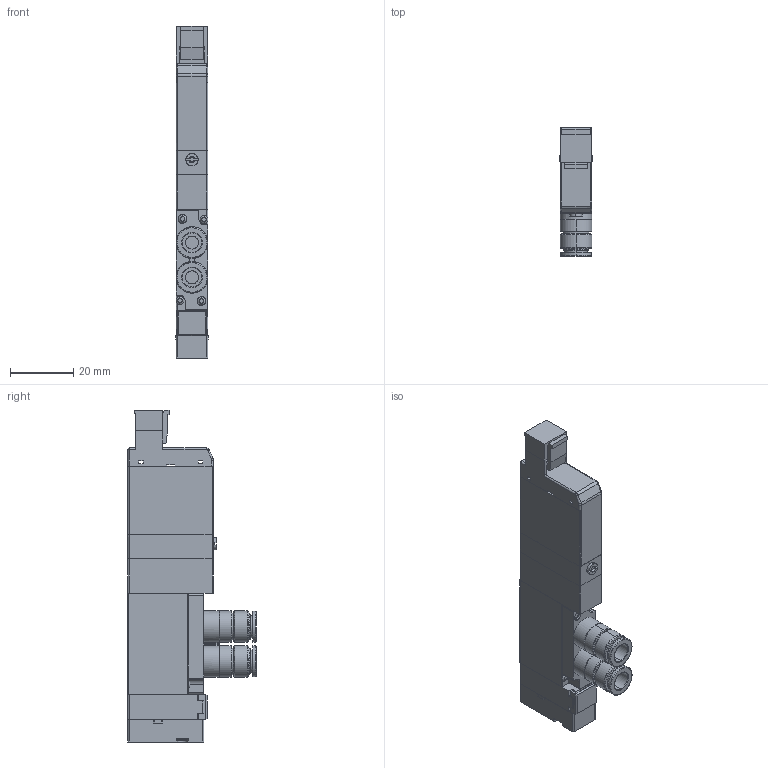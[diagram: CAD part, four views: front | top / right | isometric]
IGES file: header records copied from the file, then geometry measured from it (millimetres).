
Start section: ------------------------------------------------------------------------
Global section: file name: D:\ICADMX\tmp\trans3d_spg\CVICAD02.18204.F10T1-FJ-PS_8539.igs; native system: spGate; preprocessor: ver12.6.6; author: Unknown; organization: Unknown; date: 200901.142418; units: millimetre
Bounding box: 10.2 x 40.5 x 105 mm (x, y, z)
Volume: 26284.9 mm3; surface area: 13131.5 mm2
Topology: 7 solids, 7 shells, 414 faces, 1034 edges, 660 vertices
Faces by surface type: bspline 414
